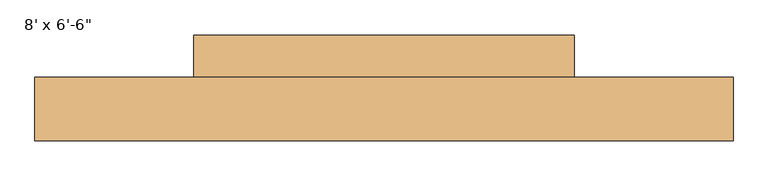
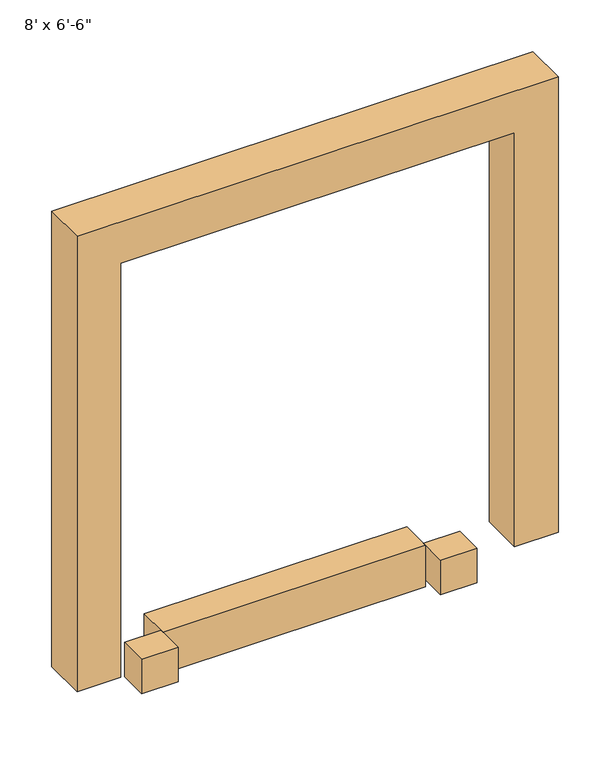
"""IFC4 building model written with IfcOpenShell, lengths in millimetres: door geometry."""

from ifc_helpers import new_model, si_unit, frame, origin, place, context, project, spatial, polyline, outline, extrude, source, transform, mapped, element, save


def door_9096417d(model_context):
    return source(origin(), model_context, "Body", "SweptSolid", [
        extrude(outline(polyline([(0.0, 1676.4), (3352.8, 1676.4), (3352.8, -1676.4), (0.0, -1676.4), (0.0, -1371.6), (3048.0, -1371.6), (3048.0, 1371.6), (0.0, 1371.6), (0.0, 1676.4)])), frame((0.0, -331.7875, 0.0), z_axis=(0.0, 1.0, 0.0), x_axis=(0.0, 0.0, 1.0)), (0.0, 0.0, 1.0), 304.8),
        extrude(outline(polyline([(-1168.4, -230.1875), (-1168.4, -26.9875), (-914.4, -26.9875), (-914.4, -230.1875), (-1168.4, -230.1875)])), frame((0.0, 0.0, -254.0), z_axis=(0.0, 0.0, 1.0), x_axis=(1.0, 0.0, 0.0)), (0.0, 0.0, 1.0), 254.0),
        extrude(outline(polyline([(914.4, -230.1875), (914.4, -26.9875), (1168.4, -26.9875), (1168.4, -230.1875), (914.4, -230.1875)])), frame((0.0, 0.0, -254.0), z_axis=(0.0, 0.0, 1.0), x_axis=(1.0, 0.0, 0.0)), (0.0, 0.0, 1.0), 254.0),
        extrude(outline(polyline([(-914.4, -52.3875), (-914.4, 176.2125), (914.4, 176.2125), (914.4, -52.3875), (-914.4, -52.3875)])), frame((0.0, 0.0, -304.8), z_axis=(0.0, 0.0, 1.0), x_axis=(1.0, 0.0, 0.0)), (0.0, 0.0, 1.0), 304.8),
    ])


if __name__ == "__main__":
    model = new_model("IFC4")
    model_context = context("Model", 3, world=origin())
    ifc_project = project(units=[si_unit("LENGTHUNIT", "METRE", prefix="MILLI")], contexts=[model_context])
    site = spatial("IfcSite", under=ifc_project)
    building = spatial("IfcBuilding", under=site)
    placement = place(None, origin())
    door_shape = door_9096417d(model_context)
    element("IfcDoor", 1, ObjectType="OHD_WPADS_2491 : 8' x 6'-6\"", at=placement, inside=building, context=model_context, shape_type="MappedRepresentation", body=[
        mapped(door_shape, transform((0.0, 0.0, 0.0), x_axis=(1.0, 0.0, 0.0), y_axis=(0.0, 1.0, 0.0), z_axis=(0.0, 0.0, 1.0))),
    ])
    save(model, "model.ifc")
